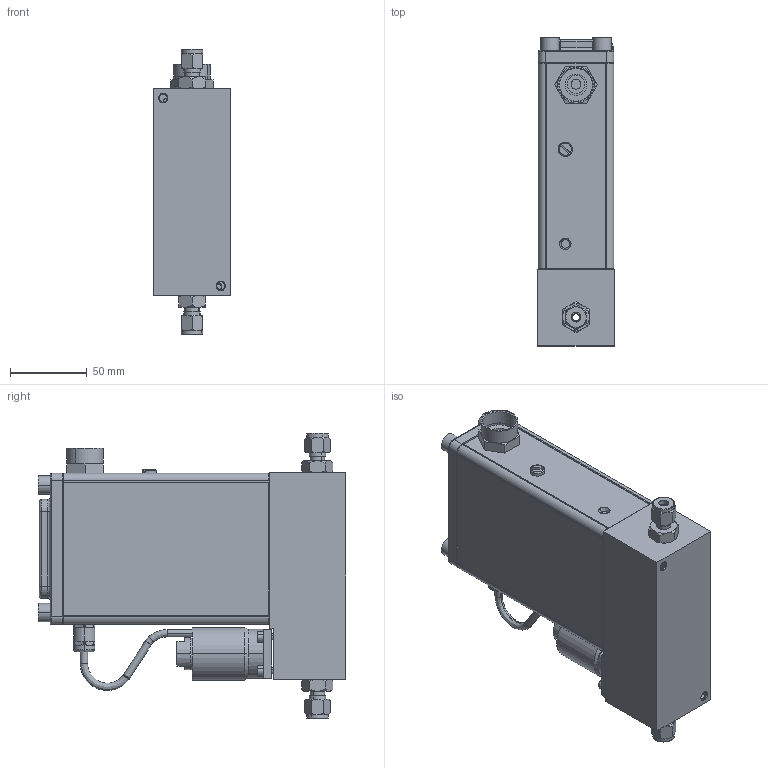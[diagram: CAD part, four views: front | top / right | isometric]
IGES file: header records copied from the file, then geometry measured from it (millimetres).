
Start section: SolidWorks IGES file using analytic representation for surfaces
Global section: file name: G:\Engineering\CAD MODELS FOR SALES\CAD MODEL STORAGE\SLA\SLAMF50\CUSTOMER FILES\IGES\SLAMF50-S-1B-1-K-REVB.IGS; native system: SolidWorks 2020; preprocessor: SolidWorks 2020; author: CFehr; date: 210621.154700; units: inch
Bounding box: 49.5 x 199.98 x 185.31 mm (x, y, z)
Volume: 439637.6 mm3; surface area: 202747.2 mm2
Topology: 35 solids, 35 shells, 931 faces, 2166 edges, 1359 vertices
Faces by surface type: revolution 510, plane 346, bspline 75
